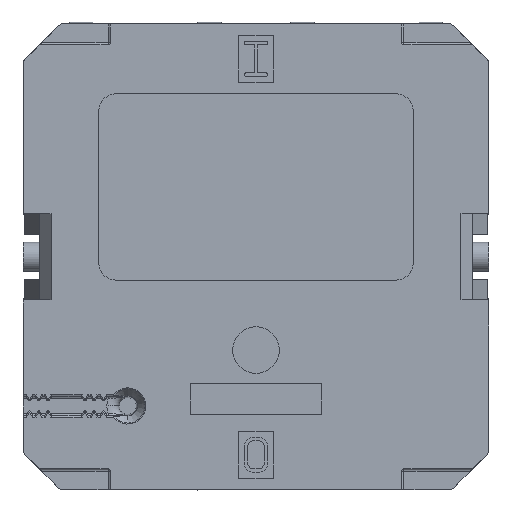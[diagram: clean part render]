
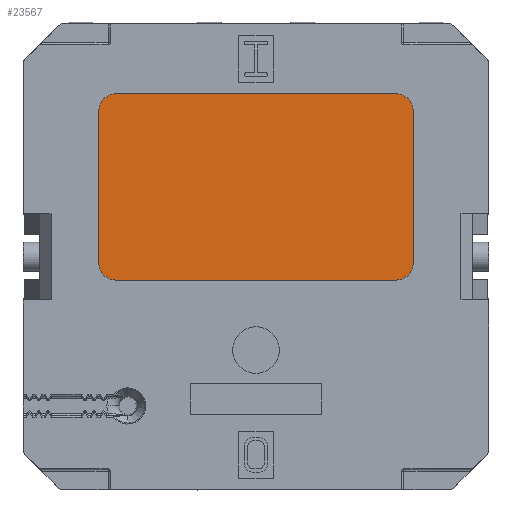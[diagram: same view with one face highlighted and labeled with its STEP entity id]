
A CAD part, front view. The second image highlights one B-rep face of the part: STEP entity #23567.
In plain terms, the highlighted planar face has unit normal (0, -1, 0).
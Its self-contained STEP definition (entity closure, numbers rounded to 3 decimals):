
#748 = AXIS2_PLACEMENT_3D ( 'NONE', #2608, #27150, #36211 ) ;
#1214 = CARTESIAN_POINT ( 'NONE',  ( -52.218, 5.292, 15.6 ) ) ;
#1325 = PLANE ( 'NONE',  #15880 ) ;
#2608 = CARTESIAN_POINT ( 'NONE',  ( -28.218, 5.292, 14.1 ) ) ;
#2611 = ORIENTED_EDGE ( 'NONE', *, *, #15095, .T. ) ;
#3719 = ORIENTED_EDGE ( 'NONE', *, *, #7090, .T. ) ;
#4612 = VERTEX_POINT ( 'NONE', #27953 ) ;
#4805 = VERTEX_POINT ( 'NONE', #15893 ) ;
#6385 = CIRCLE ( 'NONE', #35427, 1.5 ) ;
#6449 = ORIENTED_EDGE ( 'NONE', *, *, #37454, .T. ) ;
#6512 = CARTESIAN_POINT ( 'NONE',  ( -53.718, 5.292, 14.1 ) ) ;
#6616 = CARTESIAN_POINT ( 'NONE',  ( -28.218, 5.292, 1.1 ) ) ;
#6807 = EDGE_LOOP ( 'NONE', ( #25464, #2611, #9717, #11316, #10454, #3719, #10205, #6449 ) ) ;
#6958 = CARTESIAN_POINT ( 'NONE',  ( -28.218, 5.292, -0.4 ) ) ;
#7090 = EDGE_CURVE ( 'NONE', #14845, #23826, #17085, .T. ) ;
#9717 = ORIENTED_EDGE ( 'NONE', *, *, #13664, .T. ) ;
#10205 = ORIENTED_EDGE ( 'NONE', *, *, #36526, .T. ) ;
#10454 = ORIENTED_EDGE ( 'NONE', *, *, #33034, .T. ) ;
#11286 = CARTESIAN_POINT ( 'NONE',  ( -40.218, 5.292, 15.6 ) ) ;
#11316 = ORIENTED_EDGE ( 'NONE', *, *, #27856, .T. ) ;
#11322 = LINE ( 'NONE', #11286, #39480 ) ;
#12476 = DIRECTION ( 'NONE',  ( 0., 0., -1. ) ) ;
#12941 = DIRECTION ( 'NONE',  ( 0., -1., 0. ) ) ;
#13075 = VERTEX_POINT ( 'NONE', #13329 ) ;
#13269 = VECTOR ( 'NONE', #20318, 1000. ) ;
#13329 = CARTESIAN_POINT ( 'NONE',  ( -26.718, 5.292, 1.1 ) ) ;
#13499 = DIRECTION ( 'NONE',  ( 0., 0., -1. ) ) ;
#13664 = EDGE_CURVE ( 'NONE', #22242, #4805, #35282, .T. ) ;
#14298 = VERTEX_POINT ( 'NONE', #1214 ) ;
#14454 = FACE_OUTER_BOUND ( 'NONE', #6807, .T. ) ;
#14845 = VERTEX_POINT ( 'NONE', #6512 ) ;
#15095 = EDGE_CURVE ( 'NONE', #13075, #22242, #28897, .T. ) ;
#15438 = CARTESIAN_POINT ( 'NONE',  ( -53.718, 5.292, 1.1 ) ) ;
#15880 = AXIS2_PLACEMENT_3D ( 'NONE', #22285, #12941, #37489 ) ;
#15893 = CARTESIAN_POINT ( 'NONE',  ( -28.218, 5.292, 15.6 ) ) ;
#17085 = LINE ( 'NONE', #32704, #13269 ) ;
#18154 = AXIS2_PLACEMENT_3D ( 'NONE', #35221, #34818, #13499 ) ;
#20115 = DIRECTION ( 'NONE',  ( -1., 0., 0. ) ) ;
#20221 = CIRCLE ( 'NONE', #18154, 1.5 ) ;
#20318 = DIRECTION ( 'NONE',  ( 0., 0., -1. ) ) ;
#21783 = CARTESIAN_POINT ( 'NONE',  ( -26.718, 5.292, 14.1 ) ) ;
#21895 = DIRECTION ( 'NONE',  ( 0., -1., 0. ) ) ;
#21914 = CARTESIAN_POINT ( 'NONE',  ( -40.218, 5.292, -0.4 ) ) ;
#22242 = VERTEX_POINT ( 'NONE', #21783 ) ;
#22285 = CARTESIAN_POINT ( 'NONE',  ( -55.068, 5.292, -1.2 ) ) ;
#23154 = DIRECTION ( 'NONE',  ( 0., 0., 1. ) ) ;
#23567 = ADVANCED_FACE ( 'NONE', ( #14454 ), #1325, .T. ) ;
#23590 = VECTOR ( 'NONE', #23154, 1000. ) ;
#23826 = VERTEX_POINT ( 'NONE', #15438 ) ;
#24757 = DIRECTION ( 'NONE',  ( 0., -1., 0. ) ) ;
#25464 = ORIENTED_EDGE ( 'NONE', *, *, #38470, .T. ) ;
#27150 = DIRECTION ( 'NONE',  ( 0., -1., 0. ) ) ;
#27856 = EDGE_CURVE ( 'NONE', #4805, #14298, #11322, .T. ) ;
#27953 = CARTESIAN_POINT ( 'NONE',  ( -52.218, 5.292, -0.4 ) ) ;
#28177 = DIRECTION ( 'NONE',  ( 0., 0., -1. ) ) ;
#28897 = LINE ( 'NONE', #38352, #23590 ) ;
#31097 = CARTESIAN_POINT ( 'NONE',  ( -52.218, 5.292, 14.1 ) ) ;
#31116 = DIRECTION ( 'NONE',  ( 1., 0., 0. ) ) ;
#32704 = CARTESIAN_POINT ( 'NONE',  ( -53.718, 5.292, 7.6 ) ) ;
#32996 = VERTEX_POINT ( 'NONE', #6958 ) ;
#33034 = EDGE_CURVE ( 'NONE', #14298, #14845, #6385, .T. ) ;
#34818 = DIRECTION ( 'NONE',  ( 0., -1., 0. ) ) ;
#35221 = CARTESIAN_POINT ( 'NONE',  ( -52.218, 5.292, 1.1 ) ) ;
#35282 = CIRCLE ( 'NONE', #748, 1.5 ) ;
#35427 = AXIS2_PLACEMENT_3D ( 'NONE', #31097, #21895, #28177 ) ;
#35460 = LINE ( 'NONE', #21914, #38781 ) ;
#36211 = DIRECTION ( 'NONE',  ( 0., 0., -1. ) ) ;
#36526 = EDGE_CURVE ( 'NONE', #23826, #4612, #20221, .T. ) ;
#37454 = EDGE_CURVE ( 'NONE', #4612, #32996, #35460, .T. ) ;
#37489 = DIRECTION ( 'NONE',  ( 1., 0., 0. ) ) ;
#37816 = CIRCLE ( 'NONE', #38631, 1.5 ) ;
#38352 = CARTESIAN_POINT ( 'NONE',  ( -26.718, 5.292, 7.6 ) ) ;
#38470 = EDGE_CURVE ( 'NONE', #32996, #13075, #37816, .T. ) ;
#38631 = AXIS2_PLACEMENT_3D ( 'NONE', #6616, #24757, #12476 ) ;
#38781 = VECTOR ( 'NONE', #31116, 1000. ) ;
#39480 = VECTOR ( 'NONE', #20115, 1000. ) ;
